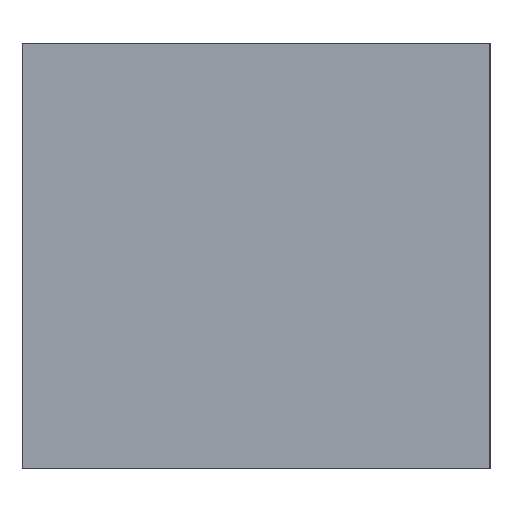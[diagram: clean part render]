
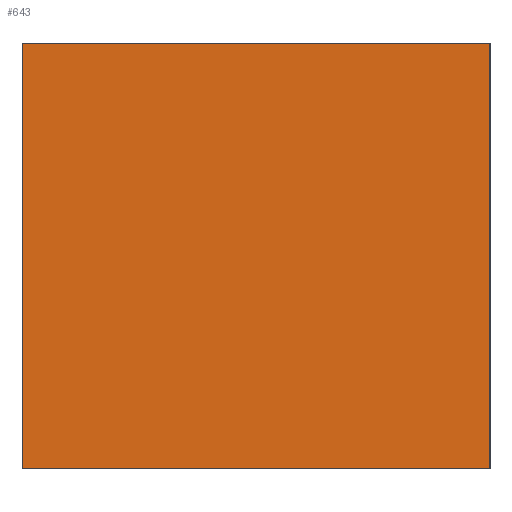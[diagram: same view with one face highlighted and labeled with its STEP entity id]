
A CAD part, left-side view. The second image highlights one B-rep face of the part: STEP entity #643.
In plain terms, the highlighted planar face has unit normal (-1, 0, 0).
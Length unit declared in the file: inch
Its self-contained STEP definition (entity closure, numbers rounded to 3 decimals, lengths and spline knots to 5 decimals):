
#24 = LINE ( 'NONE', #399, #149 ) ;
#34 = LINE ( 'NONE', #629, #255 ) ;
#70 = EDGE_CURVE ( 'NONE', #655, #474, #24, .T. ) ;
#79 = DIRECTION ( 'NONE',  ( 0., -1., 0. ) ) ;
#92 = ORIENTED_EDGE ( 'NONE', *, *, #70, .T. ) ;
#104 = ORIENTED_EDGE ( 'NONE', *, *, #167, .T. ) ;
#107 = ORIENTED_EDGE ( 'NONE', *, *, #592, .F. ) ;
#113 = LINE ( 'NONE', #656, #190 ) ;
#118 = VERTEX_POINT ( 'NONE', #573 ) ;
#149 = VECTOR ( 'NONE', #610, 39.37008 ) ;
#157 = CARTESIAN_POINT ( 'NONE',  ( -4., 2.2, 0. ) ) ;
#167 = EDGE_CURVE ( 'NONE', #474, #118, #34, .T. ) ;
#183 = DIRECTION ( 'NONE',  ( 0., 1., 0. ) ) ;
#190 = VECTOR ( 'NONE', #79, 39.37008 ) ;
#199 = CARTESIAN_POINT ( 'NONE',  ( -4., 0., 2. ) ) ;
#255 = VECTOR ( 'NONE', #469, 39.37008 ) ;
#292 = FACE_OUTER_BOUND ( 'NONE', #638, .T. ) ;
#330 = CARTESIAN_POINT ( 'NONE',  ( -4., 0., 2. ) ) ;
#366 = VECTOR ( 'NONE', #606, 39.37008 ) ;
#399 = CARTESIAN_POINT ( 'NONE',  ( -4., 2.2, 2. ) ) ;
#402 = LINE ( 'NONE', #330, #366 ) ;
#432 = ORIENTED_EDGE ( 'NONE', *, *, #666, .F. ) ;
#462 = AXIS2_PLACEMENT_3D ( 'NONE', #660, #648, #183 ) ;
#469 = DIRECTION ( 'NONE',  ( 0., -1., 0. ) ) ;
#474 = VERTEX_POINT ( 'NONE', #157 ) ;
#487 = VERTEX_POINT ( 'NONE', #199 ) ;
#490 = CARTESIAN_POINT ( 'NONE',  ( -4., 2.2, 2. ) ) ;
#561 = PLANE ( 'NONE',  #462 ) ;
#573 = CARTESIAN_POINT ( 'NONE',  ( -4., 0., 0. ) ) ;
#592 = EDGE_CURVE ( 'NONE', #655, #487, #113, .T. ) ;
#606 = DIRECTION ( 'NONE',  ( 0., 0., -1. ) ) ;
#610 = DIRECTION ( 'NONE',  ( 0., 0., -1. ) ) ;
#629 = CARTESIAN_POINT ( 'NONE',  ( -4., 2.2, 0. ) ) ;
#638 = EDGE_LOOP ( 'NONE', ( #104, #432, #107, #92 ) ) ;
#643 = ADVANCED_FACE ( 'NONE', ( #292 ), #561, .F. ) ;
#648 = DIRECTION ( 'NONE',  ( 1., 0., 0. ) ) ;
#655 = VERTEX_POINT ( 'NONE', #490 ) ;
#656 = CARTESIAN_POINT ( 'NONE',  ( -4., 2.2, 2. ) ) ;
#660 = CARTESIAN_POINT ( 'NONE',  ( -4., 2.2, 2. ) ) ;
#666 = EDGE_CURVE ( 'NONE', #487, #118, #402, .T. ) ;
